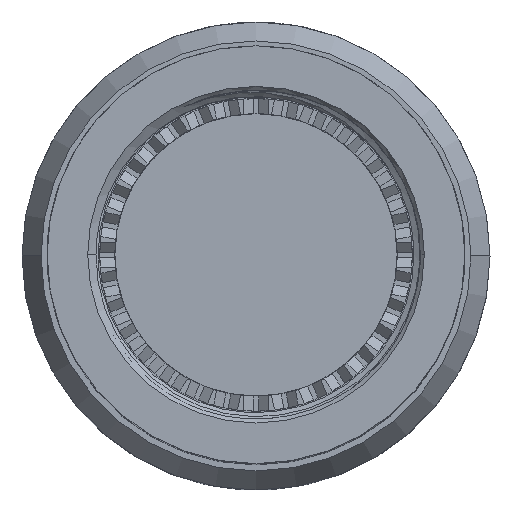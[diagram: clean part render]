
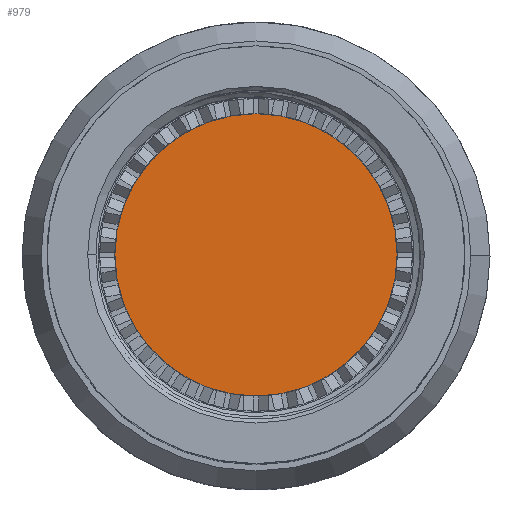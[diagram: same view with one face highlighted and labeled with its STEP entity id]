
A CAD part, top view. The second image highlights one B-rep face of the part: STEP entity #979.
In plain terms, the highlighted planar face has unit normal (0, 0, 1).
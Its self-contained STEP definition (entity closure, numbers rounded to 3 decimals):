
#979 = ADVANCED_FACE ( 'NONE', ( #36616 ), #30891, .F. ) ;
#1761 = VERTEX_POINT ( 'NONE', #6979 ) ;
#3214 = EDGE_LOOP ( 'NONE', ( #8018, #59169 ) ) ;
#6538 = CARTESIAN_POINT ( 'NONE',  ( 0., 0., -1.918 ) ) ;
#6979 = CARTESIAN_POINT ( 'NONE',  ( -11.951, 0., -1.918 ) ) ;
#7511 = DIRECTION ( 'NONE',  ( 0., 0., -1. ) ) ;
#8018 = ORIENTED_EDGE ( 'NONE', *, *, #36851, .T. ) ;
#14870 = CIRCLE ( 'NONE', #33255, 11.951 ) ;
#17952 = DIRECTION ( 'NONE',  ( 0., 0., 1. ) ) ;
#22508 = CIRCLE ( 'NONE', #32683, 11.951 ) ;
#26125 = CARTESIAN_POINT ( 'NONE',  ( 11.951, 0., -1.918 ) ) ;
#26450 = EDGE_CURVE ( 'NONE', #1761, #44533, #14870, .T. ) ;
#26720 = CARTESIAN_POINT ( 'NONE',  ( 0., 0., -1.918 ) ) ;
#30197 = DIRECTION ( 'NONE',  ( 0., 0., 1. ) ) ;
#30891 = PLANE ( 'NONE',  #59177 ) ;
#32683 = AXIS2_PLACEMENT_3D ( 'NONE', #61794, #17952, #47410 ) ;
#33255 = AXIS2_PLACEMENT_3D ( 'NONE', #6538, #30197, #44949 ) ;
#36616 = FACE_OUTER_BOUND ( 'NONE', #3214, .T. ) ;
#36851 = EDGE_CURVE ( 'NONE', #44533, #1761, #22508, .T. ) ;
#44533 = VERTEX_POINT ( 'NONE', #26125 ) ;
#44949 = DIRECTION ( 'NONE',  ( -1., 0., 0. ) ) ;
#47410 = DIRECTION ( 'NONE',  ( -1., 0., 0. ) ) ;
#51070 = DIRECTION ( 'NONE',  ( -1., 0., 0. ) ) ;
#59169 = ORIENTED_EDGE ( 'NONE', *, *, #26450, .T. ) ;
#59177 = AXIS2_PLACEMENT_3D ( 'NONE', #26720, #7511, #51070 ) ;
#61794 = CARTESIAN_POINT ( 'NONE',  ( 0., 0., -1.918 ) ) ;
